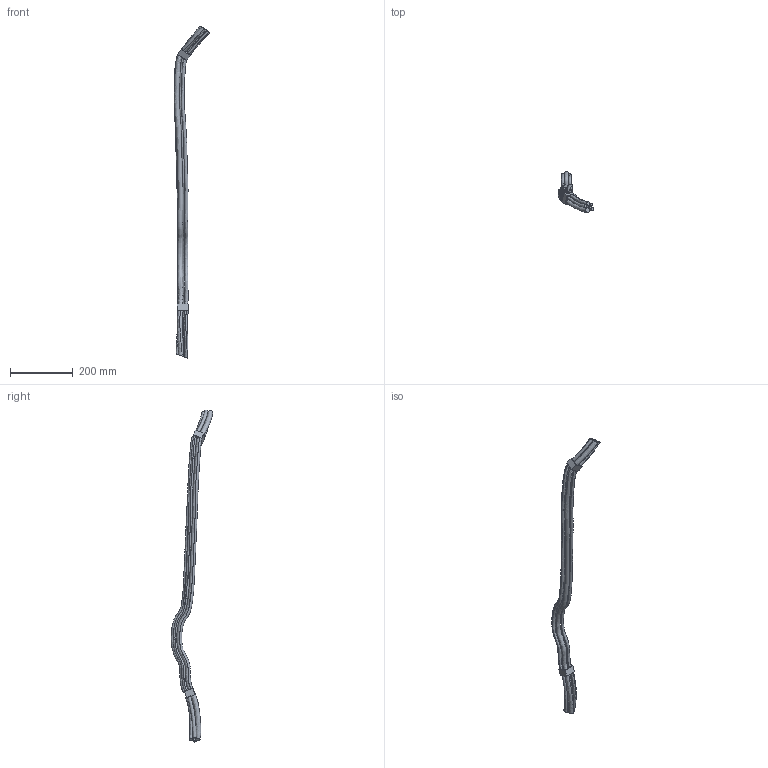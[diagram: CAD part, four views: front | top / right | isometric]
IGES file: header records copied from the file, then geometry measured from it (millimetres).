
Start section: SolidWorks IGES file using analytic representation for surfaces
Global section: file name: C:\Data\SAP_DOC\_2016-Q4_Lättmodeller RobCal\CAD Model_IRB4600_Rev04\IRB4600_40kg-255_IRC5_rev04\IRB4600_40kg-255_IRC5_rev04_IRC5_IGES_j\IRB4600_40kg-255_CABLES_LINK2_rev03.IGS; native system: SolidWorks 2014; preprocessor: SolidWorks 2014; author: SEMAAXM; date: 161206.112905; units: millimetre
Bounding box: 113.77 x 133.23 x 1061.25 mm (x, y, z)
Surface area: 216579.8 mm2 (no closed solid volume)
Topology: 0 solids, 0 shells, 70 faces, 2167 edges, 2165 vertices
Faces by surface type: bspline 65, revolution 5
